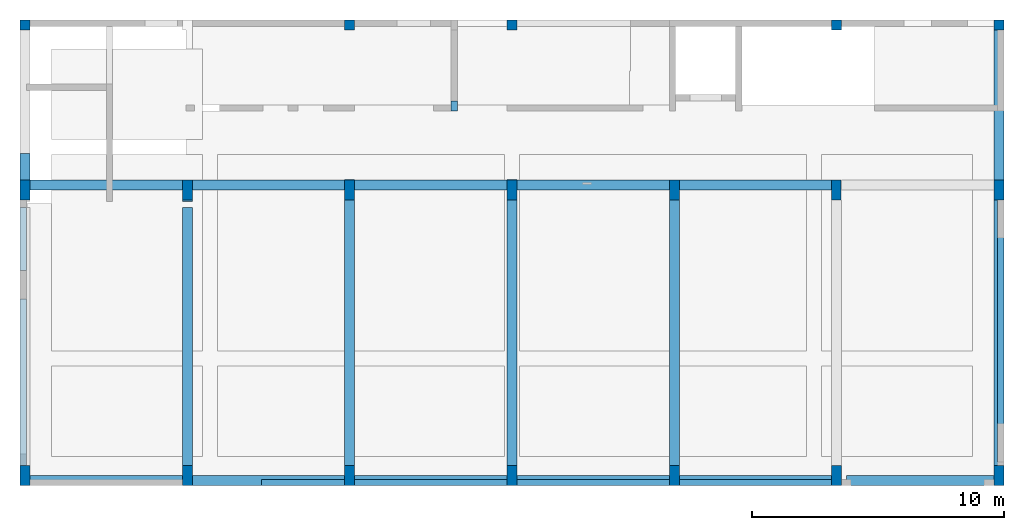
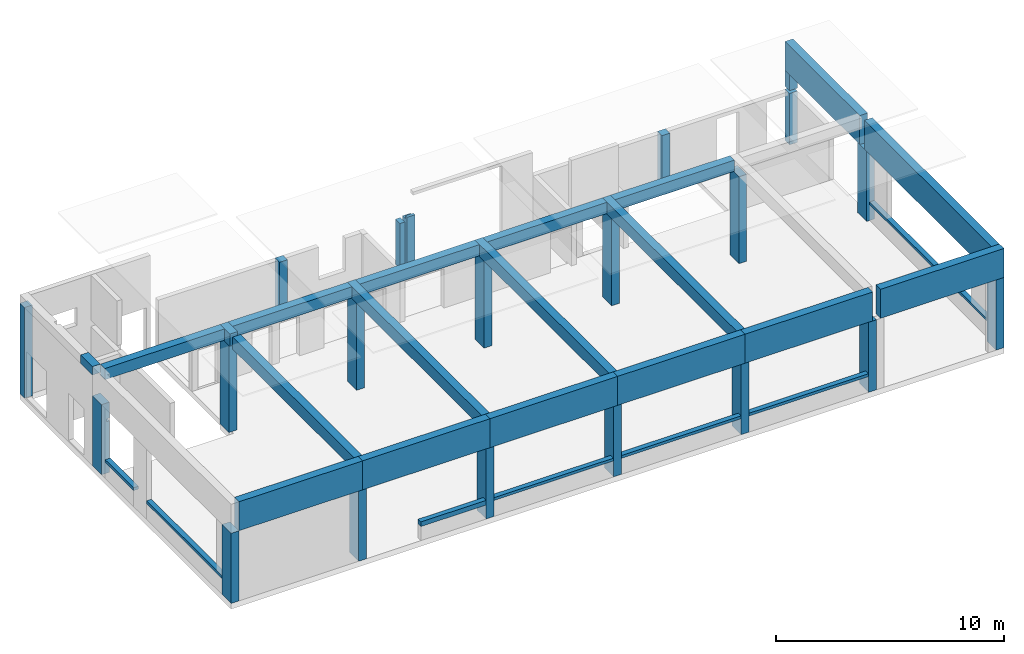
# One storey, part 1 of 3: 24 beams, 20 columns.
"""IFC2X3 building model written with IfcOpenShell, lengths in centimetres."""

import ifcopenshell
import ifcopenshell.guid

model = None  # the IFC model being written
_history = None  # IfcOwnerHistory: only IFC2X3 demands one
_inside = {}  # id of a spatial element -> (the spatial element, [elements in it])
_under = {}  # id of a project, library or spatial element -> (it, [spatial elements below it])
_declared = {}  # id of a project -> (the project, [libraries it declares])
_typed = {}  # id of a type object -> (the type object, [elements of that type])
_made_of = {}  # id of a material, layer set ... -> (it, [elements and type objects made of it])


def new_model(schema):
    """Start an empty IFC model of exactly this schema.

    Asked for "IFC4X3", IfcOpenShell would pick the latest addendum, in which some entities
    have other attributes; the version numbers below select the first issue.
    IFC2X3 requires an IfcOwnerHistory on every rooted entity: one is made here for all.
    """
    global model, _history
    if schema == "IFC4X3":
        model = ifcopenshell.file(schema_version=(4, 3, 0, 0))
    else:
        model = ifcopenshell.file(schema=schema)
    _inside.clear()
    _under.clear()
    _declared.clear()
    _typed.clear()
    _made_of.clear()
    _history = None
    if model.schema == "IFC2X3":
        org = make("IfcOrganization", Name="unknown")
        user = make(
            "IfcPersonAndOrganization",
            ThePerson=make("IfcPerson", FamilyName="unknown"),
            TheOrganization=org,
        )
        app = make(
            "IfcApplication",
            ApplicationDeveloper=org,
            Version="unknown",
            ApplicationFullName="unknown",
            ApplicationIdentifier="unknown",
        )
        _history = make(
            "IfcOwnerHistory",
            OwningUser=user,
            OwningApplication=app,
            ChangeAction="ADDED",
            CreationDate=0,
        )
    return model


def make(cls, **values):
    """One entity of the class cls with the attributes given. An attribute that is None is left unset."""
    return model.create_entity(
        cls, **{name: value for name, value in values.items() if value is not None}
    )


def entity(cls, *values):
    """Any entity or typed value of the class cls, its attributes in the order of the schema. None: left unset."""
    e = model.create_entity(cls)
    for i, value in enumerate(values):
        if value is not None:
            e[i] = value
    return e


def rooted(cls, **values):
    """An entity with a GlobalId (a new one), such as an element, a storey or a relation."""
    return make(cls, GlobalId=ifcopenshell.guid.new(), OwnerHistory=_history, **values)


def si_unit(unit_type, name, prefix=None):
    """IfcSIUnit, for example si_unit("LENGTHUNIT", "METRE", prefix="MILLI")."""
    return make("IfcSIUnit", UnitType=unit_type, Prefix=prefix, Name=name)


def converted_unit(unit_type, name, factor, base, dimensions=None, offset=None):
    """IfcConversionBasedUnit, such as the inch: factor (a typed value) times the base unit."""
    return make(
        "IfcConversionBasedUnit"
        if offset is None
        else "IfcConversionBasedUnitWithOffset",
        ConversionOffset=offset,
        Dimensions=None
        if dimensions is None
        else entity("IfcDimensionalExponents", *dimensions),
        UnitType=unit_type,
        Name=name,
        ConversionFactor=make(
            "IfcMeasureWithUnit", ValueComponent=factor, UnitComponent=base
        ),
    )


def derived_unit(unit_type, elements):
    """IfcDerivedUnit: a product of units, each with its exponent."""
    return make(
        "IfcDerivedUnit",
        Elements=[
            make("IfcDerivedUnitElement", Unit=unit, Exponent=power)
            for unit, power in elements
        ],
        UnitType=unit_type,
    )


def assignment(units):
    """IfcUnitAssignment: the units of a project."""
    return None if units is None else make("IfcUnitAssignment", Units=units)


def point(xyz):
    """IfcCartesianPoint."""
    return None if xyz is None else make("IfcCartesianPoint", Coordinates=xyz)


def direction(xyz):
    """IfcDirection."""
    return None if xyz is None else make("IfcDirection", DirectionRatios=xyz)


def frame(location, z_axis=None, x_axis=None):
    """IfcAxis2Placement3D, a coordinate frame: its origin and axes. An axis left out is left unset."""
    return make(
        "IfcAxis2Placement3D",
        Location=point(location),
        Axis=direction(z_axis),
        RefDirection=direction(x_axis),
    )


def frame_2d(location, x_axis=None):
    """IfcAxis2Placement2D, a coordinate frame in the plane: its origin and x axis."""
    return make(
        "IfcAxis2Placement2D", Location=point(location), RefDirection=direction(x_axis)
    )


def origin():
    """The frame at (0, 0, 0) with its axes left unset."""
    return frame((0.0, 0.0, 0.0))


def origin_2d_with_axis():
    """The frame at (0, 0) in the plane with the x axis (1, 0) written out."""
    return frame_2d((0.0, 0.0), x_axis=(1.0, 0.0))


def place(relative_to, where):
    """IfcLocalPlacement: puts the frame where relative to a parent placement (None: the world)."""
    return make(
        "IfcLocalPlacement", PlacementRelTo=relative_to, RelativePlacement=where
    )


def context(
    kind, dimensions, precision=None, world=None, true_north=None, identifier=None
):
    """IfcGeometricRepresentationContext, for example the 3D "Model" context."""
    return make(
        "IfcGeometricRepresentationContext",
        ContextIdentifier=identifier,
        ContextType=kind,
        CoordinateSpaceDimension=dimensions,
        Precision=precision,
        WorldCoordinateSystem=world,
        TrueNorth=true_north,
    )


def subcontext(parent, identifier, kind, view, scale=None):
    """IfcGeometricRepresentationSubContext, for example "Body" below "Model"."""
    return make(
        "IfcGeometricRepresentationSubContext",
        ContextIdentifier=identifier,
        ContextType=kind,
        ParentContext=parent,
        TargetScale=scale,
        TargetView=view,
    )


def project(units=None, contexts=None):
    """IfcProject with its units and contexts."""
    return rooted(
        "IfcProject",
        Name="project",
        RepresentationContexts=contexts,
        UnitsInContext=assignment(units),
    )


def spatial(cls, under=None, at=None, **own):
    """A site, building, storey or space (cls), placed at a placement, below another one or the project."""
    s = rooted(cls, ObjectPlacement=at, **own)
    if under is not None:
        _under.setdefault(under.id(), (under, []))[1].append(s)
    return s


def profile(cls, at=None, kind="AREA", **sizes):
    """A parametric profile (cls). Its sizes go by their IFC names, for example OverallWidth=200.0."""
    return make(cls, ProfileType=kind, Position=at, **sizes)


def rectangle(**sizes):
    """IfcRectangleProfileDef."""
    return profile("IfcRectangleProfileDef", **sizes)


def extrude(swept, where, along, depth):
    """IfcExtrudedAreaSolid: the profile swept, set in the frame where, extruded along a direction by depth."""
    return make(
        "IfcExtrudedAreaSolid",
        SweptArea=swept,
        Position=where,
        ExtrudedDirection=direction(along),
        Depth=depth,
    )


def faces_of(points, faces, orient=None, outer=None):
    """IfcFace entities. A face is a list of loops; a loop is a list of indices into points, from 0.

    orient and outer hold one flag for each loop. By default every Orientation is true, the
    first loop of a face is its IfcFaceOuterBound and the others are IfcFaceBound.
    """
    made = []
    for i, loops in enumerate(faces):
        bounds = []
        for j, loop in enumerate(loops):
            is_outer = j == 0 if outer is None else outer[i][j]
            bounds.append(
                make(
                    "IfcFaceOuterBound" if is_outer else "IfcFaceBound",
                    Bound=make("IfcPolyLoop", Polygon=[points[k] for k in loop]),
                    Orientation=True if orient is None else orient[i][j],
                )
            )
        made.append(make("IfcFace", Bounds=bounds))
    return made


def faceted_brep(points, faces, orient=None, outer=None, voids=None):
    """IfcFacetedBrep: a solid bounded by flat faces; with voids (closed shells), ...WithVoids."""
    shared = [point(p) for p in points]
    hull = make("IfcClosedShell", CfsFaces=faces_of(shared, faces, orient, outer))
    if voids is None:
        return make("IfcFacetedBrep", Outer=hull)
    return make(
        "IfcFacetedBrepWithVoids",
        Outer=hull,
        Voids=[
            make(cls, CfsFaces=faces_of(shared, fs, o, b)) for cls, fs, o, b in voids
        ],
    )


def shape(context_of_items, identifier, shape_type, items):
    """IfcShapeRepresentation: the items that make up one representation, for example the "Body"."""
    return make(
        "IfcShapeRepresentation",
        ContextOfItems=context_of_items,
        RepresentationIdentifier=identifier,
        RepresentationType=shape_type,
        Items=items,
    )


def source(mapping_origin, context_of_items, identifier, shape_type, items):
    """IfcRepresentationMap: a shape defined once, which mapped items show again and again."""
    return make(
        "IfcRepresentationMap",
        MappingOrigin=mapping_origin,
        MappedRepresentation=shape(context_of_items, identifier, shape_type, items),
    )


def transform(
    local_origin,
    x_axis=None,
    y_axis=None,
    z_axis=None,
    scale=None,
    scale2=None,
    scale3=None,
    uniform=True,
):
    """IfcCartesianTransformationOperator3D, or its non-uniform kind. x_axis, y_axis, z_axis: its Axis1, 2, 3."""
    if uniform:
        return make(
            "IfcCartesianTransformationOperator3D",
            Axis1=direction(x_axis),
            Axis2=direction(y_axis),
            LocalOrigin=point(local_origin),
            Scale=scale,
            Axis3=direction(z_axis),
        )
    return make(
        "IfcCartesianTransformationOperator3DnonUniform",
        Axis1=direction(x_axis),
        Axis2=direction(y_axis),
        LocalOrigin=point(local_origin),
        Scale=scale,
        Axis3=direction(z_axis),
        Scale2=scale2,
        Scale3=scale3,
    )


def mapped(mapping_source, mapping_target):
    """IfcMappedItem: shows the shape of a source again, moved by a transform."""
    return make(
        "IfcMappedItem", MappingSource=mapping_source, MappingTarget=mapping_target
    )


def material(Name=None, Category=None):
    """IfcMaterial."""
    return make("IfcMaterial", Name=Name, Category=Category)


def made_of(thing, what):
    """Note that an element or type object is made of a material, layer set ...; save() writes the relation."""
    if what is not None:
        _made_of.setdefault(what.id(), (what, []))[1].append(thing)
    return thing


def type_object(cls, material=None, **own):
    """A type object (cls), such as IfcWallType, which elements share."""
    return made_of(rooted(cls, **own), material)


def type_shapes(of_type, sources):
    """Give a type object the sources (RepresentationMaps) that its elements show as mapped items."""
    of_type.RepresentationMaps = sources


def element(
    cls,
    number,
    at=None,
    inside=None,
    cuts=None,
    type_object=None,
    material=None,
    context=None,
    identifier="Body",
    shape_type=None,
    held_by="IfcProductDefinitionShape",
    body=None,
    shapes=None,
    **own,
):
    """One element of the class cls, such as IfcWall. Its Tag is "e" and its number.

    at: its placement. inside: the storey or other place that contains it. cuts: it is an
    opening in that element (IfcRelVoidsElement). A single representation is given by context,
    identifier, shape_type and body (its items); several are given by shapes. held_by: the class
    of the entity that holds the representations. save() writes the other relations.
    """
    e = rooted(cls, Tag="e%d" % number, ObjectPlacement=at, **own)
    if body is not None:
        shapes = [shape(context, identifier, shape_type, body)]
    if shapes is not None:
        e.Representation = make(held_by, Representations=shapes)
    if inside is not None:
        _inside.setdefault(inside.id(), (inside, []))[1].append(e)
    if cuts is not None:
        rooted(
            "IfcRelVoidsElement", RelatingBuildingElement=cuts, RelatedOpeningElement=e
        )
    if type_object is not None:
        _typed.setdefault(type_object.id(), (type_object, []))[1].append(e)
    return made_of(e, material)


def aggregate(whole, parts):
    """IfcRelAggregates: a whole, such as a stair, and the parts it consists of."""
    return rooted("IfcRelAggregates", RelatingObject=whole, RelatedObjects=parts)


def save(model, path):
    """Write the relations noted so far, then the file.

    IfcRelAggregates (storeys below a building ...), IfcRelContainedInSpatialStructure (elements
    in a storey), IfcRelDefinesByType, IfcRelAssociatesMaterial and IfcRelDeclares: one each for
    every whole, place, type object, material and project.
    """
    for whole, parts in _under.values():
        aggregate(whole, parts)
    for where, things in _inside.values():
        rooted(
            "IfcRelContainedInSpatialStructure",
            RelatedElements=things,
            RelatingStructure=where,
        )
    for kind, things in _typed.values():
        rooted("IfcRelDefinesByType", RelatedObjects=things, RelatingType=kind)
    for what, things in _made_of.values():
        rooted("IfcRelAssociatesMaterial", RelatedObjects=things, RelatingMaterial=what)
    for by, libraries in _declared.values():
        rooted("IfcRelDeclares", RelatingContext=by, RelatedDefinitions=libraries)
    model.write(path)


model = new_model("IFC2X3")

# Units and contexts
model_context = context("Model", 3, precision=0.001, world=origin(), true_north=direction((6.12303176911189e-17, 1.0)))
body_context = subcontext(model_context, "Body", "Model", "MODEL_VIEW")
ifc_project = project(units=[si_unit("LENGTHUNIT", "METRE", prefix="CENTI"), si_unit("AREAUNIT", "SQUARE_METRE"), si_unit("VOLUMEUNIT", "CUBIC_METRE"), converted_unit("PLANEANGLEUNIT", "DEGREE", entity("IfcRatioMeasure", 0.0174532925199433), si_unit("PLANEANGLEUNIT", "RADIAN"), dimensions=[0, 0, 0, 0, 0, 0, 0]), si_unit("MASSUNIT", "GRAM", prefix="KILO"), derived_unit("MASSDENSITYUNIT", [(si_unit("MASSUNIT", "GRAM", prefix="KILO"), 1), (si_unit("LENGTHUNIT", "METRE"), -3)]), derived_unit("MOMENTOFINERTIAUNIT", [(si_unit("LENGTHUNIT", "METRE"), 4)]), si_unit("TIMEUNIT", "SECOND"), si_unit("FREQUENCYUNIT", "HERTZ"), si_unit("THERMODYNAMICTEMPERATUREUNIT", "DEGREE_CELSIUS"), derived_unit("THERMALTRANSMITTANCEUNIT", [(si_unit("MASSUNIT", "GRAM", prefix="KILO"), 1), (si_unit("THERMODYNAMICTEMPERATUREUNIT", "KELVIN"), -1), (si_unit("TIMEUNIT", "SECOND"), -3)]), derived_unit("VOLUMETRICFLOWRATEUNIT", [(si_unit("LENGTHUNIT", "METRE"), 3), (si_unit("TIMEUNIT", "SECOND"), -1)]), si_unit("ELECTRICCURRENTUNIT", "AMPERE"), si_unit("ELECTRICVOLTAGEUNIT", "VOLT"), si_unit("POWERUNIT", "WATT"), si_unit("FORCEUNIT", "NEWTON", prefix="KILO"), si_unit("ILLUMINANCEUNIT", "LUX"), si_unit("LUMINOUSFLUXUNIT", "LUMEN"), si_unit("LUMINOUSINTENSITYUNIT", "CANDELA"), derived_unit("USERDEFINED", [(si_unit("MASSUNIT", "GRAM", prefix="KILO"), -1), (si_unit("LENGTHUNIT", "METRE"), -2), (si_unit("TIMEUNIT", "SECOND"), 3), (si_unit("LUMINOUSFLUXUNIT", "LUMEN"), 1)]), derived_unit("LINEARVELOCITYUNIT", [(si_unit("LENGTHUNIT", "METRE"), 1), (si_unit("TIMEUNIT", "SECOND"), -1)]), si_unit("PRESSUREUNIT", "PASCAL"), derived_unit("USERDEFINED", [(si_unit("LENGTHUNIT", "METRE"), -2), (si_unit("MASSUNIT", "GRAM", prefix="KILO"), 1), (si_unit("TIMEUNIT", "SECOND"), -2)]), derived_unit("LINEARFORCEUNIT", [(si_unit("MASSUNIT", "GRAM", prefix="KILO"), 1), (si_unit("LENGTHUNIT", "METRE"), 1), (si_unit("TIMEUNIT", "SECOND"), -2), (si_unit("LENGTHUNIT", "METRE"), -1)]), derived_unit("PLANARFORCEUNIT", [(si_unit("MASSUNIT", "GRAM", prefix="KILO"), 1), (si_unit("LENGTHUNIT", "METRE"), 1), (si_unit("TIMEUNIT", "SECOND"), -2), (si_unit("LENGTHUNIT", "METRE"), -2)])], contexts=[model_context])

# Site, building, storey
site_placement = place(None, origin())
site = spatial("IfcSite", under=ifc_project, at=site_placement, Name="Default", CompositionType="ELEMENT")
building_placement = place(site_placement, origin())
building = spatial("IfcBuilding", under=site, at=building_placement, CompositionType="ELEMENT")
storey_placement = place(building_placement, frame((0.0, 0.0, -10.0)))
storey = spatial("IfcBuildingStorey", under=building, at=storey_placement, Name="Poziom 0K -0,10", CompositionType="ELEMENT", Elevation=-10.0)

# Columns
ifc_material_1 = material(Name="_Beton, C25/30")
column_type_1 = type_object("IfcColumnType", Name="Beton-słup prostokątny:Słup żelbetowy 40x40cm", PredefinedType="COLUMN", material=ifc_material_1)
shared_shape_1 = source(origin(), body_context, "Body", "SweptSolid", [
    extrude(rectangle(XDim=40.0, YDim=40.0, at=frame_2d((2.16715534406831e-13, -2.16715534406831e-13), x_axis=(1.0, 0.0))), frame((-2914.26510657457, 2085.12745207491, 0.0), z_axis=(0.0, 0.0, 1.0), x_axis=(0.0, -1.0, 0.0)), (0.0, 0.0, 1.0), 484.999999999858),
])
type_shapes(column_type_1, [shared_shape_1])
column_1_placement = place(storey_placement, frame((0.0, 0.0, 10.0)))
element("IfcColumn", 1, at=column_1_placement, inside=storey, type_object=column_type_1, Name="Beton-słup prostokątny:Słup żelbetowy 40x40cm", ObjectType="Beton-słup prostokątny:Słup żelbetowy 40x40cm", context=body_context, shape_type="MappedRepresentation", body=[
    mapped(shared_shape_1, transform((0.0, 0.0, 0.0), scale=1.0)),
])
column_type_2 = type_object("IfcColumnType", Name="Beton-słup prostokątny:Słup żelbetowy 40x40cm", PredefinedType="COLUMN", material=ifc_material_1)
shared_shape_2 = source(origin(), body_context, "Body", "SweptSolid", [
    extrude(rectangle(XDim=40.0, YDim=40.0, at=frame_2d((2.16715534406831e-13, 0.0), x_axis=(1.0, 0.0))), frame((-1624.26510899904, 2085.12745207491, 0.0), z_axis=(0.0, 0.0, 1.0), x_axis=(0.0, -1.0, 0.0)), (0.0, 0.0, 1.0), 274.999999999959),
])
type_shapes(column_type_2, [shared_shape_2])
column_2_placement = place(storey_placement, frame((0.0, 0.0, 10.0)))
element("IfcColumn", 2, at=column_2_placement, inside=storey, type_object=column_type_2, Name="Beton-słup prostokątny:Słup żelbetowy 40x40cm", ObjectType="Beton-słup prostokątny:Słup żelbetowy 40x40cm", context=body_context, shape_type="MappedRepresentation", body=[
    mapped(shared_shape_2, transform((0.0, 0.0, 0.0), scale=1.0)),
])
column_type_3 = type_object("IfcColumnType", Name="Beton-słup prostokątny:Słup żelbetowy 40x40cm", PredefinedType="COLUMN", material=ifc_material_1)
shared_shape_3 = source(origin(), body_context, "Body", "Brep", [
    faceted_brep([(0.0, 0.0, 290.0), (40.0, 0.0, 290.0), (40.0, 15.0, 290.0), (0.0, 15.0, 290.0), (40.0, 40.0, 0.0), (0.0, 40.0, 0.0), (0.0, 40.0, 255.0), (0.0, 40.0, 275.0), (40.0, 40.0, 275.0), (0.0, 14.9999985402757, 0.0), (0.0, 0.0, 0.0), (0.0, 0.0, 275.0), (0.0, 15.0, 275.0), (40.0, 0.0, 0.0), (40.0, 0.0, 275.0), (40.0, 14.9999794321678, 0.0), (40.0, 15.0, 275.0)], [[[0, 1, 2, 3]], [[4, 5, 6, 7, 8]], [[5, 9, 10, 11, 0, 3, 12, 7, 6]], [[1, 0, 11, 10, 13, 14]], [[15, 4, 8, 16, 2, 1, 14, 13]], [[9, 5, 4, 15, 13, 10]], [[12, 16, 8, 7]], [[16, 12, 3, 2]]]),
])
type_shapes(column_type_3, [shared_shape_3])
column_3_placement = place(storey_placement, frame((-999.265108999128, 2065.1274520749, 10.0)))
element("IfcColumn", 3, at=column_3_placement, inside=storey, type_object=column_type_3, material=ifc_material_1, Name="Beton-słup prostokątny:Słup żelbetowy 40x40cm", ObjectType="Beton-słup prostokątny:Słup żelbetowy 40x40cm", context=body_context, shape_type="MappedRepresentation", body=[
    mapped(shared_shape_3, transform((0.0, 0.0, 0.0), scale=1.0)),
])
column_type_4 = type_object("IfcColumnType", Name="Beton-słup prostokątny:Słup żelbetowy 40x40cm", PredefinedType="COLUMN", material=ifc_material_1)
shared_shape_4 = source(origin(), body_context, "Body", "SweptSolid", [
    extrude(rectangle(XDim=40.0, YDim=40.0, at=origin_2d_with_axis()), frame((310.734891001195, 2085.1274520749, 0.0), z_axis=(0.0, 0.0, 1.0), x_axis=(0.0, -1.0, 0.0)), (0.0, 0.0, 1.0), 274.999999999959),
])
type_shapes(column_type_4, [shared_shape_4])
column_4_placement = place(storey_placement, frame((0.0, 0.0, 10.0)))
element("IfcColumn", 4, at=column_4_placement, inside=storey, type_object=column_type_4, Name="Beton-słup prostokątny:Słup żelbetowy 40x40cm", ObjectType="Beton-słup prostokątny:Słup żelbetowy 40x40cm", context=body_context, shape_type="MappedRepresentation", body=[
    mapped(shared_shape_4, transform((0.0, 0.0, 0.0), scale=1.0)),
])
column_type_5 = type_object("IfcColumnType", Name="Beton-słup prostokątny:Słup żelbetowy 40x40cm", PredefinedType="COLUMN", material=ifc_material_1)
shared_shape_5 = source(origin(), body_context, "Body", "SweptSolid", [
    extrude(rectangle(XDim=40.0, YDim=40.0, at=frame_2d((2.16715534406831e-13, 0.0), x_axis=(1.0, 0.0))), frame((955.734894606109, 2085.1274520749, 290.0), z_axis=(0.0, 0.0, 1.0), x_axis=(0.0, -1.0, 0.0)), (0.0, 0.0, 1.0), 84.9999999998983),
    extrude(rectangle(XDim=40.0, YDim=40.0, at=frame_2d((2.16715534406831e-13, 0.0), x_axis=(1.0, 0.0))), frame((955.734894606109, 2085.1274520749, 0.0), z_axis=(0.0, 0.0, 1.0), x_axis=(0.0, -1.0, 0.0)), (0.0, 0.0, 1.0), 274.999999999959),
])
type_shapes(column_type_5, [shared_shape_5])
column_5_placement = place(storey_placement, frame((0.0, 0.0, 10.0)))
element("IfcColumn", 5, at=column_5_placement, inside=storey, type_object=column_type_5, Name="Beton-słup prostokątny:Słup żelbetowy 40x40cm", ObjectType="Beton-słup prostokątny:Słup żelbetowy 40x40cm", context=body_context, shape_type="MappedRepresentation", body=[
    mapped(shared_shape_5, transform((0.0, 0.0, 0.0), scale=1.0)),
])
column_type_6 = type_object("IfcColumnType", Name="Beton-słup prostokątny:Słup 40 x 80 cm", PredefinedType="COLUMN", material=ifc_material_1)
shared_shape_6 = source(origin(), body_context, "Body", "Brep", [
    faceted_brep([(40.0, 80.0, 375.0), (0.0, 80.0, 375.0), (0.0, 0.0, 375.0), (25.0000027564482, 0.0, 375.0), (40.0, 0.0, 375.0), (40.0, 80.0, 290.0), (25.0000013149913, 80.0, 290.0), (25.0000013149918, 80.0, 275.0), (40.0, 80.0, 275.0), (40.0, 80.0, 0.0), (25.0000013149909, 80.0, 0.0), (0.0, 80.0, 0.0), (0.0, 0.0, 0.0), (25.0000027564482, 0.0, 0.0), (40.0, 0.0, 0.0), (40.0, 0.0, 275.0), (25.0000013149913, 0.0, 275.0), (25.0000013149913, 0.0, 290.0), (40.0, 0.0, 290.0)], [[[0, 1, 2, 3, 4]], [[1, 0, 5, 6, 7, 8, 9, 10, 11]], [[2, 1, 11, 12]], [[4, 3, 2, 12, 13, 14, 15, 16, 17, 18]], [[0, 4, 18, 5]], [[10, 9, 14, 13, 12, 11]], [[7, 16, 15, 8]], [[17, 6, 5, 18]], [[16, 7, 6, 17]], [[14, 9, 8, 15]]]),
])
type_shapes(column_type_6, [shared_shape_6])
column_6_placement = place(storey_placement, frame((-2934.26510657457, 1390.12745208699, 10.0)))
element("IfcColumn", 6, at=column_6_placement, inside=storey, type_object=column_type_6, material=ifc_material_1, Name="Beton-słup prostokątny:Słup 40 x 80 cm", ObjectType="Beton-słup prostokątny:Słup 40 x 80 cm", context=body_context, shape_type="MappedRepresentation", body=[
    mapped(shared_shape_6, transform((0.0, 0.0, 0.0), scale=1.0)),
])
column_type_7 = type_object("IfcColumnType", Name="Beton-słup prostokątny:Słup 40 x 80 cm", PredefinedType="COLUMN", material=ifc_material_1)
shared_shape_7 = source(origin(), body_context, "Body", "SweptSolid", [
    extrude(rectangle(XDim=80.0000000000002, YDim=40.0000000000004, at=frame_2d((0.0, 2.16715534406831e-13), x_axis=(1.0, 0.0))), frame((-2269.26510899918, 1430.12745208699, 0.0), z_axis=(0.0, 0.0, 1.0), x_axis=(0.0, -1.0, 0.0)), (0.0, 0.0, 1.0), 464.999999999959),
])
type_shapes(column_type_7, [shared_shape_7])
column_7_placement = place(storey_placement, frame((0.0, 0.0, 10.0)))
element("IfcColumn", 7, at=column_7_placement, inside=storey, type_object=column_type_7, Name="Beton-słup prostokątny:Słup 40 x 80 cm", ObjectType="Beton-słup prostokątny:Słup 40 x 80 cm", context=body_context, shape_type="MappedRepresentation", body=[
    mapped(shared_shape_7, transform((0.0, 0.0, 0.0), scale=1.0)),
])
column_type_8 = type_object("IfcColumnType", Name="Beton-słup prostokątny:Słup 40 x 80 cm", PredefinedType="COLUMN", material=ifc_material_1)
shared_shape_8 = source(origin(), body_context, "Body", "SweptSolid", [
    extrude(rectangle(XDim=80.0, YDim=40.0, at=origin_2d_with_axis()), frame((-1624.26510901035, 1430.12745208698, 0.0), z_axis=(0.0, 0.0, 1.0), x_axis=(0.0, -1.0, 0.0)), (0.0, 0.0, 1.0), 464.999999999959),
])
type_shapes(column_type_8, [shared_shape_8])
column_8_placement = place(storey_placement, frame((0.0, 0.0, 10.0)))
element("IfcColumn", 8, at=column_8_placement, inside=storey, type_object=column_type_8, Name="Beton-słup prostokątny:Słup 40 x 80 cm", ObjectType="Beton-słup prostokątny:Słup 40 x 80 cm", context=body_context, shape_type="MappedRepresentation", body=[
    mapped(shared_shape_8, transform((0.0, 0.0, 0.0), scale=1.0)),
])
column_type_9 = type_object("IfcColumnType", Name="Beton-słup prostokątny:Słup 40 x 80 cm", PredefinedType="COLUMN", material=ifc_material_1)
shared_shape_9 = source(origin(), body_context, "Body", "SweptSolid", [
    extrude(rectangle(XDim=80.0, YDim=40.0, at=origin_2d_with_axis()), frame((-979.265109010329, 1430.12745208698, 0.0), z_axis=(0.0, 0.0, 1.0), x_axis=(0.0, -1.0, 0.0)), (0.0, 0.0, 1.0), 464.999999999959),
])
type_shapes(column_type_9, [shared_shape_9])
column_9_placement = place(storey_placement, frame((0.0, 0.0, 10.0)))
element("IfcColumn", 9, at=column_9_placement, inside=storey, type_object=column_type_9, Name="Beton-słup prostokątny:Słup 40 x 80 cm", ObjectType="Beton-słup prostokątny:Słup 40 x 80 cm", context=body_context, shape_type="MappedRepresentation", body=[
    mapped(shared_shape_9, transform((0.0, 0.0, 0.0), scale=1.0)),
])
column_type_10 = type_object("IfcColumnType", Name="Beton-słup prostokątny:Słup 40 x 80 cm", PredefinedType="COLUMN", material=ifc_material_1)
shared_shape_10 = source(origin(), body_context, "Body", "SweptSolid", [
    extrude(rectangle(XDim=80.0, YDim=40.0, at=origin_2d_with_axis()), frame((-334.265109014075, 1430.12745208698, 0.0), z_axis=(0.0, 0.0, 1.0), x_axis=(0.0, -1.0, 0.0)), (0.0, 0.0, 1.0), 464.999999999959),
])
type_shapes(column_type_10, [shared_shape_10])
column_10_placement = place(storey_placement, frame((0.0, 0.0, 10.0)))
element("IfcColumn", 10, at=column_10_placement, inside=storey, type_object=column_type_10, Name="Beton-słup prostokątny:Słup 40 x 80 cm", ObjectType="Beton-słup prostokątny:Słup 40 x 80 cm", context=body_context, shape_type="MappedRepresentation", body=[
    mapped(shared_shape_10, transform((0.0, 0.0, 0.0), scale=1.0)),
])
column_type_11 = type_object("IfcColumnType", Name="Beton-słup prostokątny:Słup 40 x 80 cm", PredefinedType="COLUMN", material=ifc_material_1)
shared_shape_11 = source(origin(), body_context, "Body", "SweptSolid", [
    extrude(rectangle(XDim=80.0, YDim=37.5000000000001, at=frame_2d((0.0, -5.32907051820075e-14), x_axis=(1.0, 0.0))), frame((309.484890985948, 1430.12745208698, 0.0), z_axis=(0.0, 0.0, 1.0), x_axis=(0.0, -1.0, 0.0)), (0.0, 0.0, 1.0), 464.999999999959),
])
type_shapes(column_type_11, [shared_shape_11])
column_11_placement = place(storey_placement, frame((0.0, 0.0, 10.0)))
element("IfcColumn", 11, at=column_11_placement, inside=storey, type_object=column_type_11, Name="Beton-słup prostokątny:Słup 40 x 80 cm", ObjectType="Beton-słup prostokątny:Słup 40 x 80 cm", context=body_context, shape_type="MappedRepresentation", body=[
    mapped(shared_shape_11, transform((0.0, 0.0, 0.0), scale=1.0)),
])
column_type_12 = type_object("IfcColumnType", Name="Beton-słup prostokątny:Słup 40 x 80 cm", PredefinedType="COLUMN", material=ifc_material_1)
shared_shape_12 = source(origin(), body_context, "Body", "SweptSolid", [
    extrude(rectangle(XDim=80.0, YDim=40.0, at=origin_2d_with_axis()), frame((955.734891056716, 1430.12745208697, 0.0), z_axis=(0.0, 0.0, 1.0), x_axis=(0.0, -1.0, 0.0)), (0.0, 0.0, 1.0), 374.999999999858),
])
type_shapes(column_type_12, [shared_shape_12])
column_12_placement = place(storey_placement, frame((0.0, 0.0, 10.0)))
element("IfcColumn", 12, at=column_12_placement, inside=storey, type_object=column_type_12, Name="Beton-słup prostokątny:Słup 40 x 80 cm", ObjectType="Beton-słup prostokątny:Słup 40 x 80 cm", context=body_context, shape_type="MappedRepresentation", body=[
    mapped(shared_shape_12, transform((0.0, 0.0, 0.0), scale=1.0)),
])
column_type_13 = type_object("IfcColumnType", Name="Beton-słup prostokątny:Słup 40 x 80 cm", PredefinedType="COLUMN", material=ifc_material_1)
shared_shape_13 = source(origin(), body_context, "Body", "SweptSolid", [
    extrude(rectangle(XDim=80.0, YDim=40.0, at=origin_2d_with_axis()), frame((955.734891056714, 295.12765760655, 0.0), z_axis=(0.0, 0.0, 1.0), x_axis=(0.0, -1.0, 0.0)), (0.0, 0.0, 1.0), 374.999999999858),
])
type_shapes(column_type_13, [shared_shape_13])
column_13_placement = place(storey_placement, frame((0.0, 0.0, 10.0)))
element("IfcColumn", 13, at=column_13_placement, inside=storey, type_object=column_type_13, Name="Beton-słup prostokątny:Słup 40 x 80 cm", ObjectType="Beton-słup prostokątny:Słup 40 x 80 cm", context=body_context, shape_type="MappedRepresentation", body=[
    mapped(shared_shape_13, transform((0.0, 0.0, 0.0), scale=1.0)),
])
column_type_14 = type_object("IfcColumnType", Name="Beton-słup prostokątny:Słup 40 x 80 cm", PredefinedType="COLUMN", material=ifc_material_1)
shared_shape_14 = source(origin(), body_context, "Body", "SweptSolid", [
    extrude(rectangle(XDim=80.0, YDim=40.0, at=origin_2d_with_axis()), frame((310.734893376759, 295.127657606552, 0.0), z_axis=(0.0, 0.0, 1.0), x_axis=(0.0, -1.0, 0.0)), (0.0, 0.0, 1.0), 374.999999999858),
])
type_shapes(column_type_14, [shared_shape_14])
column_14_placement = place(storey_placement, frame((0.0, 0.0, 10.0)))
element("IfcColumn", 14, at=column_14_placement, inside=storey, type_object=column_type_14, Name="Beton-słup prostokątny:Słup 40 x 80 cm", ObjectType="Beton-słup prostokątny:Słup 40 x 80 cm", context=body_context, shape_type="MappedRepresentation", body=[
    mapped(shared_shape_14, transform((0.0, 0.0, 0.0), scale=1.0)),
])
column_type_15 = type_object("IfcColumnType", Name="Beton-słup prostokątny:Słup 40 x 80 cm", PredefinedType="COLUMN", material=ifc_material_1)
shared_shape_15 = source(origin(), body_context, "Body", "SweptSolid", [
    extrude(rectangle(XDim=80.0, YDim=40.0, at=origin_2d_with_axis()), frame((-334.265106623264, 295.127657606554, 0.0), z_axis=(0.0, 0.0, 1.0), x_axis=(0.0, -1.0, 0.0)), (0.0, 0.0, 1.0), 374.999999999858),
])
type_shapes(column_type_15, [shared_shape_15])
column_15_placement = place(storey_placement, frame((0.0, 0.0, 10.0)))
element("IfcColumn", 15, at=column_15_placement, inside=storey, type_object=column_type_15, Name="Beton-słup prostokątny:Słup 40 x 80 cm", ObjectType="Beton-słup prostokątny:Słup 40 x 80 cm", context=body_context, shape_type="MappedRepresentation", body=[
    mapped(shared_shape_15, transform((0.0, 0.0, 0.0), scale=1.0)),
])
column_type_16 = type_object("IfcColumnType", Name="Beton-słup prostokątny:Słup 40 x 80 cm", PredefinedType="COLUMN", material=ifc_material_1)
shared_shape_16 = source(origin(), body_context, "Body", "SweptSolid", [
    extrude(rectangle(XDim=80.0, YDim=40.0, at=origin_2d_with_axis()), frame((-979.265106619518, 295.127657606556, 0.0), z_axis=(0.0, 0.0, 1.0), x_axis=(0.0, -1.0, 0.0)), (0.0, 0.0, 1.0), 374.999999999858),
])
type_shapes(column_type_16, [shared_shape_16])
column_16_placement = place(storey_placement, frame((0.0, 0.0, 10.0)))
element("IfcColumn", 16, at=column_16_placement, inside=storey, type_object=column_type_16, Name="Beton-słup prostokątny:Słup 40 x 80 cm", ObjectType="Beton-słup prostokątny:Słup 40 x 80 cm", context=body_context, shape_type="MappedRepresentation", body=[
    mapped(shared_shape_16, transform((0.0, 0.0, 0.0), scale=1.0)),
])
column_type_17 = type_object("IfcColumnType", Name="Beton-słup prostokątny:Słup 40 x 80 cm", PredefinedType="COLUMN", material=ifc_material_1)
shared_shape_17 = source(origin(), body_context, "Body", "SweptSolid", [
    extrude(rectangle(XDim=80.0, YDim=40.0, at=origin_2d_with_axis()), frame((-1624.26510661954, 295.127657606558, 0.0), z_axis=(0.0, 0.0, 1.0), x_axis=(0.0, -1.0, 0.0)), (0.0, 0.0, 1.0), 374.999999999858),
])
type_shapes(column_type_17, [shared_shape_17])
column_17_placement = place(storey_placement, frame((0.0, 0.0, 10.0)))
element("IfcColumn", 17, at=column_17_placement, inside=storey, type_object=column_type_17, Name="Beton-słup prostokątny:Słup 40 x 80 cm", ObjectType="Beton-słup prostokątny:Słup 40 x 80 cm", context=body_context, shape_type="MappedRepresentation", body=[
    mapped(shared_shape_17, transform((0.0, 0.0, 0.0), scale=1.0)),
])
column_type_18 = type_object("IfcColumnType", Name="Beton-słup prostokątny:Słup 40 x 80 cm", PredefinedType="COLUMN", material=ifc_material_1)
shared_shape_18 = source(origin(), body_context, "Body", "SweptSolid", [
    extrude(rectangle(XDim=80.0, YDim=40.0, at=frame_2d((0.0, -2.16715534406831e-13), x_axis=(1.0, 0.0))), frame((-2269.26510661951, 295.12765760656, 0.0), z_axis=(0.0, 0.0, 1.0), x_axis=(0.0, -1.0, 0.0)), (0.0, 0.0, 1.0), 374.999999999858),
])
type_shapes(column_type_18, [shared_shape_18])
column_18_placement = place(storey_placement, frame((0.0, 0.0, 10.0)))
element("IfcColumn", 18, at=column_18_placement, inside=storey, type_object=column_type_18, Name="Beton-słup prostokątny:Słup 40 x 80 cm", ObjectType="Beton-słup prostokątny:Słup 40 x 80 cm", context=body_context, shape_type="MappedRepresentation", body=[
    mapped(shared_shape_18, transform((0.0, 0.0, 0.0), scale=1.0)),
])
column_type_19 = type_object("IfcColumnType", Name="Beton-słup prostokątny:Słup 40 x 80 cm", PredefinedType="COLUMN", material=ifc_material_1)
shared_shape_19 = source(origin(), body_context, "Body", "SweptSolid", [
    extrude(rectangle(XDim=80.0, YDim=40.0, at=frame_2d((0.0, -2.16715534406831e-13), x_axis=(1.0, 0.0))), frame((-2914.2651058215, 295.127657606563, 0.0), z_axis=(0.0, 0.0, 1.0), x_axis=(0.0, -1.0, 0.0)), (0.0, 0.0, 1.0), 374.999999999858),
])
type_shapes(column_type_19, [shared_shape_19])
column_19_placement = place(storey_placement, frame((0.0, 0.0, 10.0)))
element("IfcColumn", 19, at=column_19_placement, inside=storey, type_object=column_type_19, Name="Beton-słup prostokątny:Słup 40 x 80 cm", ObjectType="Beton-słup prostokątny:Słup 40 x 80 cm", context=body_context, shape_type="MappedRepresentation", body=[
    mapped(shared_shape_19, transform((0.0, 0.0, 0.0), scale=1.0)),
])
column_type_20 = type_object("IfcColumnType", Name="Beton-słup prostokątny:Słup 25 x 40 cm", PredefinedType="COLUMN", material=ifc_material_1)
shared_shape_20 = source(origin(), body_context, "Body", "SweptSolid", [
    extrude(rectangle(XDim=40.0, YDim=24.9999999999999, at=origin_2d_with_axis()), frame((-1209.26508927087, 1763.1274520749, 290.0), z_axis=(0.0, 0.0, 1.0), x_axis=(0.0, -1.0, 0.0)), (0.0, 0.0, 1.0), 239.999999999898),
])
type_shapes(column_type_20, [shared_shape_20])
column_20_placement = place(storey_placement, frame((0.0, 0.0, 10.0)))
element("IfcColumn", 20, at=column_20_placement, inside=storey, type_object=column_type_20, Name="Beton-słup prostokątny:Słup 25 x 40 cm", ObjectType="Beton-słup prostokątny:Słup 25 x 40 cm", context=body_context, shape_type="MappedRepresentation", body=[
    mapped(shared_shape_20, transform((0.0, 0.0, 0.0), scale=1.0)),
])

# Beams
beam_type_1 = type_object("IfcBeamType", Name="Beton-belka prostokątna:Belka żelbetowa 40x65 cm", PredefinedType="BEAM", material=ifc_material_1)
shared_shape_21 = source(origin(), body_context, "Body", "SweptSolid", [
    extrude(rectangle(XDim=64.9999999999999, YDim=40.0000000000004, at=frame_2d((0.0, -8.17124146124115e-14), x_axis=(0.0, 1.0))), frame((-2269.26510899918, 1359.12745234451, 497.499999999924), z_axis=(0.0, -1.0, 0.0), x_axis=(-1.0, 0.0, 0.0)), (0.0, 0.0, 1.0), 1064.00000027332),
    extrude(rectangle(XDim=64.9999999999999, YDim=40.0000000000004, at=frame_2d((0.0, 2.8421709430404e-14), x_axis=(0.0, 1.0))), frame((-2269.26510899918, 1470.12745208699, 497.499999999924), z_axis=(0.0, -1.0, 0.0), x_axis=(-1.0, 0.0, 0.0)), (0.0, 0.0, 1.0), 85.9999997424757),
])
type_shapes(beam_type_1, [shared_shape_21])
beam_1_placement = place(storey_placement, frame((0.0, 0.0, 10.0)))
element("IfcBeam", 21, at=beam_1_placement, inside=storey, type_object=beam_type_1, Name="Beton-belka prostokątna:Belka żelbetowa 40x65 cm", ObjectType="Beton-belka prostokątna:Belka żelbetowa 40x65 cm", context=body_context, shape_type="MappedRepresentation", body=[
    mapped(shared_shape_21, transform((0.0, 0.0, 0.0), scale=1.0)),
])
beam_2_placement = place(storey_placement, frame((-334.265109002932, 1470.12745208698, 475.0), z_axis=(0.0, 0.0, 1.0), x_axis=(0.0, -1.0, 0.0)))
element("IfcBeam", 22, at=beam_2_placement, inside=storey, type_object=beam_type_1, material=ifc_material_1, Name="Beton-belka prostokątna:Belka żelbetowa 40x65 cm", ObjectType="Beton-belka prostokątna:Belka żelbetowa 40x65 cm", context=body_context, shape_type="SweptSolid", body=[
    extrude(rectangle(XDim=64.9999999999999, YDim=40.0000000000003, at=frame_2d((-1.10134124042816e-13, 2.66453525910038e-14), x_axis=(1.0, 0.0))), frame((0.0, 0.0, 32.4999999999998), z_axis=(1.0, 0.0, 0.0), x_axis=(0.0, 0.0, -1.0)), (0.0, 0.0, 1.0), 1175.00000001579),
])
beam_3_placement = place(storey_placement, frame((-1624.26510655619, 1471.12745207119, 475.0), z_axis=(0.0, 0.0, 1.0), x_axis=(0.0, -1.0, 0.0)))
element("IfcBeam", 23, at=beam_3_placement, inside=storey, type_object=beam_type_1, material=ifc_material_1, Name="Beton-belka prostokątna:Belka żelbetowa 40x65 cm", ObjectType="Beton-belka prostokątna:Belka żelbetowa 40x65 cm", context=body_context, shape_type="SweptSolid", body=[
    extrude(rectangle(XDim=64.9999999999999, YDim=40.0000000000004, at=frame_2d((-1.10134124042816e-13, 0.0), x_axis=(1.0, 0.0))), frame((0.0, 0.0, 32.4999999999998), z_axis=(1.0, 0.0, 0.0), x_axis=(0.0, 0.0, -1.0)), (0.0, 0.0, 1.0), 1176.0),
])
beam_4_placement = place(storey_placement, frame((-979.265106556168, 1471.12745207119, 475.0), z_axis=(0.0, 0.0, 1.0), x_axis=(0.0, -1.0, 0.0)))
element("IfcBeam", 24, at=beam_4_placement, inside=storey, type_object=beam_type_1, material=ifc_material_1, Name="Beton-belka prostokątna:Belka żelbetowa 40x65 cm", ObjectType="Beton-belka prostokątna:Belka żelbetowa 40x65 cm", context=body_context, shape_type="SweptSolid", body=[
    extrude(rectangle(XDim=64.9999999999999, YDim=40.0000000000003, at=frame_2d((-1.10134124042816e-13, -5.32907051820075e-14), x_axis=(1.0, 0.0))), frame((0.0, 0.0, 32.4999999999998), z_axis=(1.0, 0.0, 0.0), x_axis=(0.0, 0.0, -1.0)), (0.0, 0.0, 1.0), 1176.0),
])
ifc_material_2 = material(Name="_Beton C30/37")
beam_type_2 = type_object("IfcBeamType", Name="Beton-belka prostokątna:Belka żelbetowa 40x155cm", PredefinedType="NOTDEFINED")
beam_5_placement = place(storey_placement, frame((955.734891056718, 1408.87724653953, 385.0), z_axis=(0.0, 0.0, 1.0), x_axis=(0.0, -1.0, 0.0)))
element("IfcBeam", 25, at=beam_5_placement, inside=storey, type_object=beam_type_2, material=ifc_material_2, Name="Beton-belka prostokątna:Belka żelbetowa 40x155cm", ObjectType="Beton-belka prostokątna:Belka żelbetowa 40x155cm", context=body_context, shape_type="SweptSolid", body=[
    extrude(rectangle(XDim=155.0, YDim=40.0000000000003, at=frame_2d((-1.06581410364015e-13, -5.32907051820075e-14), x_axis=(1.0, 0.0))), frame((0.0, 0.0, 77.4999999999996), z_axis=(1.0, 0.0, 0.0), x_axis=(0.0, 0.0, -1.0)), (0.0, 0.0, 1.0), 1113.74979446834),
])
beam_6_placement = place(storey_placement, frame((955.73489105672, 2105.12745061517, 385.0), z_axis=(0.0, 0.0, 1.0), x_axis=(0.0, -1.0, 0.0)))
element("IfcBeam", 26, at=beam_6_placement, inside=storey, type_object=beam_type_2, material=ifc_material_2, Name="Beton-belka prostokątna:Belka żelbetowa 40x155cm", ObjectType="Beton-belka prostokątna:Belka żelbetowa 40x155cm", context=body_context, shape_type="SweptSolid", body=[
    extrude(rectangle(XDim=155.0, YDim=40.0000000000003, at=frame_2d((-7.8159700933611e-14, -5.32907051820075e-14), x_axis=(1.0, 0.0))), frame((0.0, 0.0, 77.4999999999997), z_axis=(1.0, 0.0, 0.0), x_axis=(0.0, 0.0, -1.0)), (0.0, 0.0, 1.0), 654.999998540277),
])
beam_7_placement = place(storey_placement, frame((975.734891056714, 275.127452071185, 385.0), z_axis=(0.0, 0.0, 1.0), x_axis=(-1.0, 0.0, 0.0)))
element("IfcBeam", 27, at=beam_7_placement, inside=storey, type_object=beam_type_2, material=ifc_material_2, Name="Beton-belka prostokątna:Belka żelbetowa 40x155cm", ObjectType="Beton-belka prostokątna:Belka żelbetowa 40x155cm", context=body_context, shape_type="SweptSolid", body=[
    extrude(rectangle(XDim=155.0, YDim=40.0000000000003, at=frame_2d((2.8421709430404e-14, 2.00373051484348e-12), x_axis=(1.0, 0.0))), frame((0.0, 0.0, 77.4999999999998), z_axis=(1.0, 0.0, 0.0), x_axis=(0.0, 0.0, -1.0)), (0.0, 0.0, 1.0), 625.000000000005),
])
beam_8_placement = place(storey_placement, frame((310.734893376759, 275.127452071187, 385.0), z_axis=(0.0, 0.0, 1.0), x_axis=(-1.0, 0.0, 0.0)))
element("IfcBeam", 28, at=beam_8_placement, inside=storey, type_object=beam_type_2, material=ifc_material_2, Name="Beton-belka prostokątna:Belka żelbetowa 40x155cm", ObjectType="Beton-belka prostokątna:Belka żelbetowa 40x155cm", context=body_context, shape_type="SweptSolid", body=[
    extrude(rectangle(XDim=155.0, YDim=40.0000000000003, at=frame_2d((-2.1316282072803e-14, 2.05879757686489e-12), x_axis=(1.0, 0.0))), frame((0.0, 0.0, 77.4999999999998), z_axis=(1.0, 0.0, 0.0), x_axis=(0.0, 0.0, -1.0)), (0.0, 0.0, 1.0), 645.000002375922),
])
for number, where, z_axis, x_axis in (
    (29, (-334.265106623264, 275.127452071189, 385.0), (0.0, 0.0, 1.0), (-1.0, 0.0, 0.0)),
    (30, (-979.265106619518, 275.127452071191, 385.0), (0.0, 0.0, 1.0), (-1.0, 0.0, 0.0)),
    (31, (-1624.26510661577, 275.127452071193, 385.0), (0.0, 0.0, 1.0), (-1.0, 0.0, 0.0)),
):
    element("IfcBeam", number, at=place(storey_placement, frame(where, z_axis=z_axis, x_axis=x_axis)), inside=storey, type_object=beam_type_2, material=ifc_material_2, Name="Beton-belka prostokątna:Belka żelbetowa 40x155cm", ObjectType="Beton-belka prostokątna:Belka żelbetowa 40x155cm", context=body_context, shape_type="SweptSolid", body=[
        extrude(rectangle(XDim=155.0, YDim=40.0000000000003, at=frame_2d((-2.1316282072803e-14, 2.05879757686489e-12), x_axis=(1.0, 0.0))), frame((0.0, 0.0, 77.4999999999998), z_axis=(1.0, 0.0, 0.0), x_axis=(0.0, 0.0, -1.0)), (0.0, 0.0, 1.0), 644.999999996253),
    ])
beam_9_placement = place(storey_placement, frame((-2269.26510661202, 275.127452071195, 385.0), z_axis=(0.0, 0.0, 1.0), x_axis=(-1.0, 0.0, 0.0)))
element("IfcBeam", 32, at=beam_9_placement, inside=storey, type_object=beam_type_2, material=ifc_material_2, Name="Beton-belka prostokątna:Belka żelbetowa 40x155cm", ObjectType="Beton-belka prostokątna:Belka żelbetowa 40x155cm", context=body_context, shape_type="SweptSolid", body=[
    extrude(rectangle(XDim=155.0, YDim=40.0000000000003, at=frame_2d((-2.1316282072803e-14, 2.00373051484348e-12), x_axis=(1.0, 0.0))), frame((0.0, 0.0, 77.4999999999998), z_axis=(1.0, 0.0, 0.0), x_axis=(0.0, 0.0, -1.0)), (0.0, 0.0, 1.0), 625.000001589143),
])
beam_type_3 = type_object("IfcBeamType", Name="Beton-belka prostokątna:BELKA 40x45", PredefinedType="NOTDEFINED")
beam_10_placement = place(storey_placement, frame((-2914.26510657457, 1450.12745207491, 495.0), z_axis=(0.0, 0.0, 1.0), x_axis=(0.0, 1.0, 0.0)))
element("IfcBeam", 33, at=beam_10_placement, inside=storey, type_object=beam_type_3, material=ifc_material_2, Name="Beton-belka prostokątna:BELKA 40x45", ObjectType="Beton-belka prostokątna:BELKA 40x45", context=body_context, shape_type="SweptSolid", body=[
    extrude(rectangle(XDim=45.0, YDim=40.0000000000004, at=frame_2d((2.8421709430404e-14, -4.33431068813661e-13), x_axis=(1.0, 0.0))), frame((20.0, 0.0, 22.4999999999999), z_axis=(1.0, 0.0, 0.0), x_axis=(0.0, 0.0, -1.0)), (0.0, 0.0, 1.0), 103.770251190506),
])
beam_type_4 = type_object("IfcBeamType", Name="Beton-belka prostokątna:wieniec 25x25", PredefinedType="BEAM", material=ifc_material_2)
shared_shape_22 = source(origin(), body_context, "Body", "SweptSolid", [
    extrude(rectangle(XDim=14.9999999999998, YDim=25.0000000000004, at=frame_2d((0.0, -1.33226762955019e-14), x_axis=(0.0, 1.0))), frame((-2921.76510381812, 996.127450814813, 92.4999999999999), z_axis=(0.0, -1.0, 0.0), x_axis=(-1.0, 0.0, 0.0)), (0.0, 0.0, 1.0), 660.99979320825),
    extrude(rectangle(XDim=14.9999999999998, YDim=25.0000000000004, at=frame_2d((-4.33431068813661e-13, -1.33226762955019e-14), x_axis=(0.0, 1.0))), frame((-2921.76510381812, 1359.12745234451, 92.4999999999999), z_axis=(0.0, -1.0, 0.0), x_axis=(-1.0, 0.0, 0.0)), (0.0, 0.0, 1.0), 249.49998113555),
])
type_shapes(beam_type_4, [shared_shape_22])
beam_11_placement = place(storey_placement, frame((0.0, 0.0, 10.0)))
element("IfcBeam", 34, at=beam_11_placement, inside=storey, type_object=beam_type_4, Name="Beton-belka prostokątna:wieniec 25x25", ObjectType="Beton-belka prostokątna:wieniec 25x25", context=body_context, shape_type="MappedRepresentation", body=[
    mapped(shared_shape_22, transform((0.0, 0.0, 0.0), scale=1.0)),
])
beam_12_placement = place(storey_placement, frame((-1974.26510344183, 267.627499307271, 0.0)))
element("IfcBeam", 35, at=beam_12_placement, inside=storey, type_object=beam_type_4, material=ifc_material_2, Name="Beton-belka prostokątna:wieniec 25x25", ObjectType="Beton-belka prostokątna:wieniec 25x25", context=body_context, shape_type="SweptSolid", body=[
    extrude(rectangle(XDim=25.0, YDim=25.0000000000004, at=frame_2d((7.105427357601e-15, 1.05515596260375e-12), x_axis=(1.0, 0.0))), frame((0.0, 0.0, 97.4999999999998), z_axis=(1.0, 0.0, 0.0), x_axis=(0.0, 0.0, -1.0)), (0.0, 0.0, 1.0), 329.999996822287),
])
beam_13_placement = place(storey_placement, frame((-1604.26510344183, 267.62749930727, 0.0)))
element("IfcBeam", 36, at=beam_13_placement, inside=storey, type_object=beam_type_4, material=ifc_material_2, Name="Beton-belka prostokątna:wieniec 25x25", ObjectType="Beton-belka prostokątna:wieniec 25x25", context=body_context, shape_type="SweptSolid", body=[
    extrude(rectangle(XDim=14.9999999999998, YDim=25.0000000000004, at=frame_2d((7.105427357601e-15, 1.94955163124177e-12), x_axis=(1.0, 0.0))), frame((0.0, 0.0, 102.5), z_axis=(1.0, 0.0, 0.0), x_axis=(0.0, 0.0, -1.0)), (0.0, 0.0, 1.0), 604.999996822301),
])
beam_14_placement = place(storey_placement, frame((-959.265103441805, 267.627499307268, 0.0)))
element("IfcBeam", 37, at=beam_14_placement, inside=storey, type_object=beam_type_4, material=ifc_material_2, Name="Beton-belka prostokątna:wieniec 25x25", ObjectType="Beton-belka prostokątna:wieniec 25x25", context=body_context, shape_type="SweptSolid", body=[
    extrude(rectangle(XDim=14.9999999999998, YDim=25.0000000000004, at=frame_2d((7.105427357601e-15, 2.43627340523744e-12), x_axis=(1.0, 0.0))), frame((0.0, 0.0, 102.5), z_axis=(1.0, 0.0, 0.0), x_axis=(0.0, 0.0, -1.0)), (0.0, 0.0, 1.0), 604.999996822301),
])
beam_15_placement = place(storey_placement, frame((-314.265106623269, 267.627499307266, 0.0)))
element("IfcBeam", 38, at=beam_15_placement, inside=storey, type_object=beam_type_4, material=ifc_material_2, Name="Beton-belka prostokątna:wieniec 25x25", ObjectType="Beton-belka prostokątna:wieniec 25x25", context=body_context, shape_type="SweptSolid", body=[
    extrude(rectangle(XDim=14.9999999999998, YDim=25.0000000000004, at=frame_2d((7.105427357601e-15, 1.94955163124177e-12), x_axis=(1.0, 0.0))), frame((0.0, 0.0, 102.5), z_axis=(1.0, 0.0, 0.0), x_axis=(0.0, 0.0, -1.0)), (0.0, 0.0, 1.0), 604.999996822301),
])
beam_16_placement = place(storey_placement, frame((963.234897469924, 348.727452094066, 0.0), z_axis=(0.0, 0.0, 1.0), x_axis=(0.0, 1.0, 0.0)))
element("IfcBeam", 39, at=beam_16_placement, inside=storey, type_object=beam_type_4, material=ifc_material_2, Name="Beton-belka prostokątna:wieniec 25x25", ObjectType="Beton-belka prostokątna:wieniec 25x25", context=body_context, shape_type="SweptSolid", body=[
    extrude(rectangle(XDim=14.9999999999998, YDim=25.0000000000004, at=frame_2d((6.66133814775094e-15, 0.0), x_axis=(1.0, 0.0))), frame((0.0, 0.0, 102.5), z_axis=(1.0, 0.0, 0.0), x_axis=(0.0, 0.0, -1.0)), (0.0, 0.0, 1.0), 1041.39999999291),
])
beam_type_5 = type_object("IfcBeamType", Name="Beton-belka prostokątna:Belka żelbetowa 40x60cm", PredefinedType="NOTDEFINED")
beam_17_placement = place(storey_placement, frame((-999.265106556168, 1450.1274520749, 385.0), z_axis=(0.0, 0.0, 1.0), x_axis=(-1.0, 0.0, 0.0)))
element("IfcBeam", 40, at=beam_17_placement, inside=storey, type_object=beam_type_5, material=ifc_material_2, Name="Beton-belka prostokątna:Belka żelbetowa 40x60cm", ObjectType="Beton-belka prostokątna:Belka żelbetowa 40x60cm", context=body_context, shape_type="SweptSolid", body=[
    extrude(rectangle(XDim=60.0000000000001, YDim=40.0000000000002, at=frame_2d((2.66453525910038e-14, 1.95043980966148e-12), x_axis=(1.0, 0.0))), frame((0.0, 0.0, 125.0), z_axis=(1.0, 0.0, 0.0), x_axis=(0.0, 0.0, -1.0)), (0.0, 0.0, 1.0), 605.000000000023),
])
for number, where, z_axis, x_axis in (
    (41, (-353.265106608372, 1450.12745208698, 385.0), (0.0, 0.0, 1.0), (-1.0, 0.0, 0.0)),
    (42, (291.734893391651, 1450.12745208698, 385.0), (0.0, 0.0, 1.0), (-1.0, 0.0, 0.0)),
):
    element("IfcBeam", number, at=place(storey_placement, frame(where, z_axis=z_axis, x_axis=x_axis)), inside=storey, type_object=beam_type_5, material=ifc_material_2, Name="Beton-belka prostokątna:Belka żelbetowa 40x60cm", ObjectType="Beton-belka prostokątna:Belka żelbetowa 40x60cm", context=body_context, shape_type="SweptSolid", body=[
        extrude(rectangle(XDim=60.0000000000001, YDim=40.0000000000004, at=frame_2d((2.66453525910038e-14, 1.95043980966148e-12), x_axis=(1.0, 0.0))), frame((1.00000239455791, 0.0, 125.0), z_axis=(1.0, 0.0, 0.0), x_axis=(0.0, 0.0, -1.0)), (0.0, 0.0, 1.0), 604.999997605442),
    ])
for number, where, z_axis, x_axis in (
    (43, (-1644.26510655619, 1450.12745208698, 385.0), (0.0, 0.0, 1.0), (-1.0, 0.0, 0.0)),
    (44, (-2289.2651041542, 1450.12745208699, 385.0), (0.0, 0.0, 1.0), (-1.0, 0.0, 0.0)),
):
    element("IfcBeam", number, at=place(storey_placement, frame(where, z_axis=z_axis, x_axis=x_axis)), inside=storey, type_object=beam_type_5, material=ifc_material_2, Name="Beton-belka prostokątna:Belka żelbetowa 40x60cm", ObjectType="Beton-belka prostokątna:Belka żelbetowa 40x60cm", context=body_context, shape_type="SweptSolid", body=[
        extrude(rectangle(XDim=60.0000000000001, YDim=40.0000000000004, at=frame_2d((2.66453525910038e-14, 1.95043980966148e-12), x_axis=(1.0, 0.0))), frame((0.0, 0.0, 125.0), z_axis=(1.0, 0.0, 0.0), x_axis=(0.0, 0.0, -1.0)), (0.0, 0.0, 1.0), 605.000002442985),
    ])

save(model, "model.ifc")
